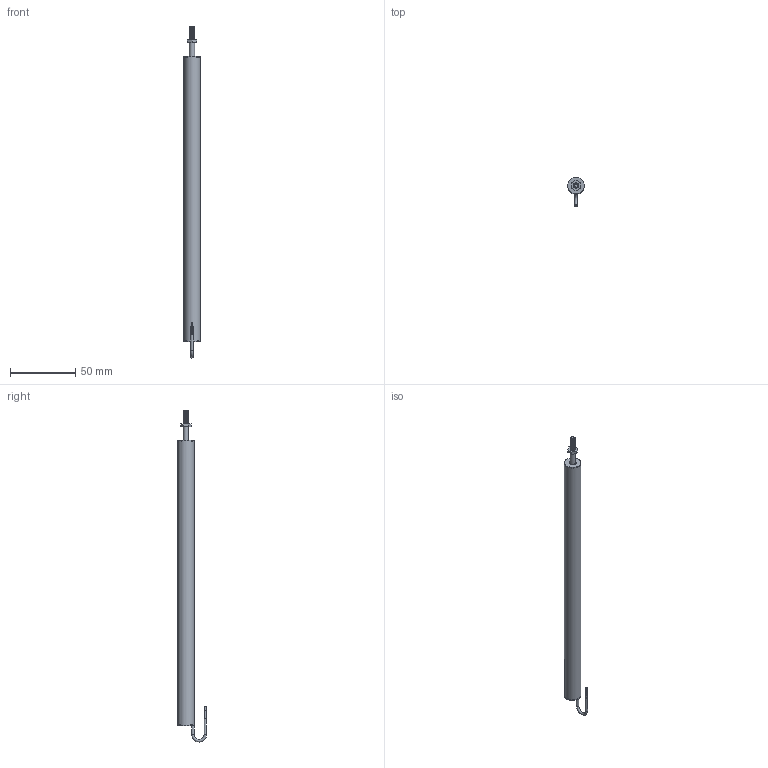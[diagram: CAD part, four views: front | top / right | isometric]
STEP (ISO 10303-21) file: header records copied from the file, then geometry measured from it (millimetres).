
FILE_DESCRIPTION(/* description */ (''),/* implementation_level */ '2;1');
FILE_NAME(/* name */ 'C:\Users\Justin\Documents\CAD\The Sensor Connection\Position Sensors\Displacement\ILPS\3D\Mechanically Linked\ILPS-13Z-XXX-A-00-YY-S\ILPS-13Z-08-A-00-YY-S\ILPS-13Z-08-A-00-YY-S Assembly_SW.iam.stp',/* time_stamp */ '2022-06-03T09:26:18-04:00',/* author */ ('TSC_Grant'),/* organization */ (''),/* preprocessor_version */ 'ST-DEVELOPER v19',/* originating_system */ 'Autodesk Inventor 2023',/* authorisation */ '');
FILE_SCHEMA (('AUTOMOTIVE_DESIGN { 1 0 10303 214 3 1 1 }'));
Length unit declared in the file: inch
Products named in the file (5): 3020-0017-XX Assembly_SW; 3020-0017-XX Sensor Tube_SW; 3020-0017-XX Shaft_SW; 3020-0017-XX Wire_SW; BS 4183 - M4
Assembly tree (4 placements, depth 2):
  3020-0017-XX Assembly_SW
    3020-0017-XX Sensor Tube_SW
    3020-0017-XX Shaft_SW
    3020-0017-XX Wire_SW
    BS 4183 - M4
Bounding box: 12.7 x 22.14 x 253.81 mm (x, y, z)
Volume: 5581.1 mm3; surface area: 28274.7 mm2
Topology: 7 solids, 7 shells, 60 faces, 112 edges, 74 vertices
Faces by surface type: plane 31, cylinder 21, cone 4, bspline 3, torus 1
Full cylindrical faces by diameter (mm): 0.508 x4, 0.635 x4, 1.857 x2, 3.242 x1, 3.988 x1, 4.826 x1, 5.588 x3, 12.446 x2, 12.7 x1
Entity records: 3403 total; most frequent: CARTESIAN_POINT 1860, DIRECTION 281, ORIENTED_EDGE 224, AXIS2_PLACEMENT_3D 116, EDGE_CURVE 112, EDGE_LOOP 78, VERTEX_POINT 74, FACE_OUTER_BOUND 60
